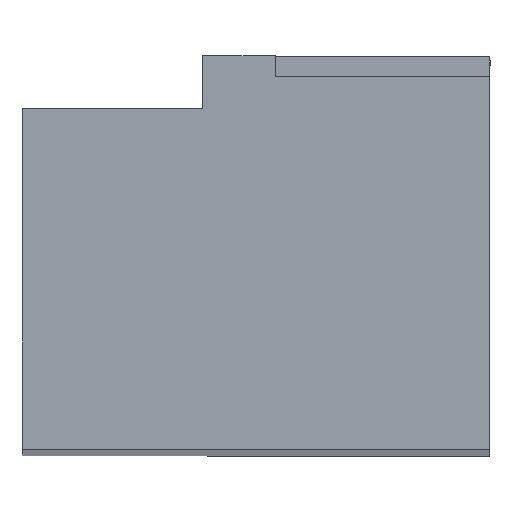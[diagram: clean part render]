
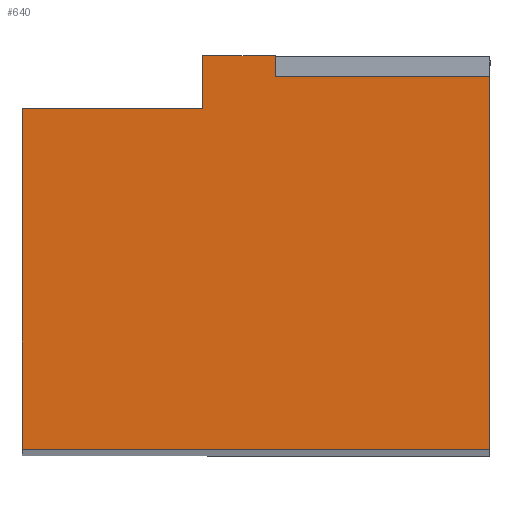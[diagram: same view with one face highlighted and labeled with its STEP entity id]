
A CAD part, top view. The second image highlights one B-rep face of the part: STEP entity #640.
In plain terms, the highlighted planar face has unit normal (0, 0, 1).
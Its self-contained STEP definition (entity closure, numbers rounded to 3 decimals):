
#158 = AXIS2_PLACEMENT_3D ( 'NONE', #341, #314, #313 ) ;
#188 = VERTEX_POINT ( 'NONE', #506 ) ;
#198 = EDGE_CURVE ( 'NONE', #568, #281, #1081, .T. ) ;
#221 = VERTEX_POINT ( 'NONE', #520 ) ;
#233 = CARTESIAN_POINT ( 'NONE',  ( -6.1, 0., 136.1 ) ) ;
#238 = CARTESIAN_POINT ( 'NONE',  ( 4., -17.5, 136.1 ) ) ;
#247 = CARTESIAN_POINT ( 'NONE',  ( -9.5, -1.5, 136.1 ) ) ;
#281 = VERTEX_POINT ( 'NONE', #418 ) ;
#287 = VERTEX_POINT ( 'NONE', #424 ) ;
#313 = DIRECTION ( 'NONE',  ( 0., -1., 0. ) ) ;
#314 = DIRECTION ( 'NONE',  ( 0., 0., -1. ) ) ;
#320 = EDGE_CURVE ( 'NONE', #281, #287, #1018, .T. ) ;
#333 = DIRECTION ( 'NONE',  ( 1., 0., 0. ) ) ;
#336 = PLANE ( 'NONE',  #158 ) ;
#341 = CARTESIAN_POINT ( 'NONE',  ( -18., -17.5, 136.1 ) ) ;
#342 = DIRECTION ( 'NONE',  ( 1., 0., 0. ) ) ;
#343 = DIRECTION ( 'NONE',  ( 0., -1., 0. ) ) ;
#347 = CARTESIAN_POINT ( 'NONE',  ( 4., 0., 136.1 ) ) ;
#393 = EDGE_CURVE ( 'NONE', #221, #568, #889, .T. ) ;
#395 = CARTESIAN_POINT ( 'NONE',  ( -18., -17.5, 136.1 ) ) ;
#398 = DIRECTION ( 'NONE',  ( -1., 0., 0. ) ) ;
#412 = CARTESIAN_POINT ( 'NONE',  ( -18., -1.5, 136.1 ) ) ;
#417 = CARTESIAN_POINT ( 'NONE',  ( -9.5, 1., 136.1 ) ) ;
#418 = CARTESIAN_POINT ( 'NONE',  ( -6.1, 1., 136.1 ) ) ;
#424 = CARTESIAN_POINT ( 'NONE',  ( -6.1, 0., 136.1 ) ) ;
#438 = DIRECTION ( 'NONE',  ( 0., -1., 0. ) ) ;
#439 = CARTESIAN_POINT ( 'NONE',  ( -6.1, -16.5, 136.1 ) ) ;
#444 = CARTESIAN_POINT ( 'NONE',  ( -9.5, 1., 136.1 ) ) ;
#459 = DIRECTION ( 'NONE',  ( 0., 1., 0. ) ) ;
#462 = CARTESIAN_POINT ( 'NONE',  ( -18., -1.5, 136.1 ) ) ;
#464 = CARTESIAN_POINT ( 'NONE',  ( 4., -17.5, 136.1 ) ) ;
#479 = DIRECTION ( 'NONE',  ( 0., 1., 0. ) ) ;
#490 = DIRECTION ( 'NONE',  ( 1., 0., 0. ) ) ;
#506 = CARTESIAN_POINT ( 'NONE',  ( -18., -17.5, 136.1 ) ) ;
#515 = CARTESIAN_POINT ( 'NONE',  ( -6.1, 1., 136.1 ) ) ;
#520 = CARTESIAN_POINT ( 'NONE',  ( -9.5, -1.5, 136.1 ) ) ;
#530 = EDGE_CURVE ( 'NONE', #188, #564, #941, .T. ) ;
#560 = VERTEX_POINT ( 'NONE', #464 ) ;
#564 = VERTEX_POINT ( 'NONE', #412 ) ;
#568 = VERTEX_POINT ( 'NONE', #417 ) ;
#569 = VERTEX_POINT ( 'NONE', #347 ) ;
#605 = EDGE_CURVE ( 'NONE', #560, #188, #909, .T. ) ;
#610 = EDGE_CURVE ( 'NONE', #569, #560, #1063, .T. ) ;
#612 = EDGE_CURVE ( 'NONE', #564, #221, #904, .T. ) ;
#622 = EDGE_CURVE ( 'NONE', #287, #569, #1053, .T. ) ;
#640 = ADVANCED_FACE ( 'NONE', ( #789 ), #336, .F. ) ;
#683 = ORIENTED_EDGE ( 'NONE', *, *, #612, .F. ) ;
#685 = ORIENTED_EDGE ( 'NONE', *, *, #393, .F. ) ;
#686 = ORIENTED_EDGE ( 'NONE', *, *, #605, .F. ) ;
#693 = ORIENTED_EDGE ( 'NONE', *, *, #198, .F. ) ;
#706 = ORIENTED_EDGE ( 'NONE', *, *, #320, .F. ) ;
#710 = ORIENTED_EDGE ( 'NONE', *, *, #610, .F. ) ;
#715 = ORIENTED_EDGE ( 'NONE', *, *, #530, .F. ) ;
#736 = ORIENTED_EDGE ( 'NONE', *, *, #622, .F. ) ;
#789 = FACE_OUTER_BOUND ( 'NONE', #854, .T. ) ;
#798 = VECTOR ( 'NONE', #333, 1000. ) ;
#854 = EDGE_LOOP ( 'NONE', ( #706, #693, #685, #683, #715, #686, #710, #736 ) ) ;
#889 = LINE ( 'NONE', #444, #982 ) ;
#898 = VECTOR ( 'NONE', #398, 1000. ) ;
#904 = LINE ( 'NONE', #247, #1049 ) ;
#909 = LINE ( 'NONE', #395, #898 ) ;
#941 = LINE ( 'NONE', #462, #954 ) ;
#954 = VECTOR ( 'NONE', #479, 1000. ) ;
#967 = VECTOR ( 'NONE', #490, 1000. ) ;
#982 = VECTOR ( 'NONE', #459, 1000. ) ;
#985 = VECTOR ( 'NONE', #343, 1000. ) ;
#1018 = LINE ( 'NONE', #439, #1071 ) ;
#1049 = VECTOR ( 'NONE', #342, 1000. ) ;
#1053 = LINE ( 'NONE', #233, #798 ) ;
#1063 = LINE ( 'NONE', #238, #985 ) ;
#1071 = VECTOR ( 'NONE', #438, 1000. ) ;
#1081 = LINE ( 'NONE', #515, #967 ) ;
